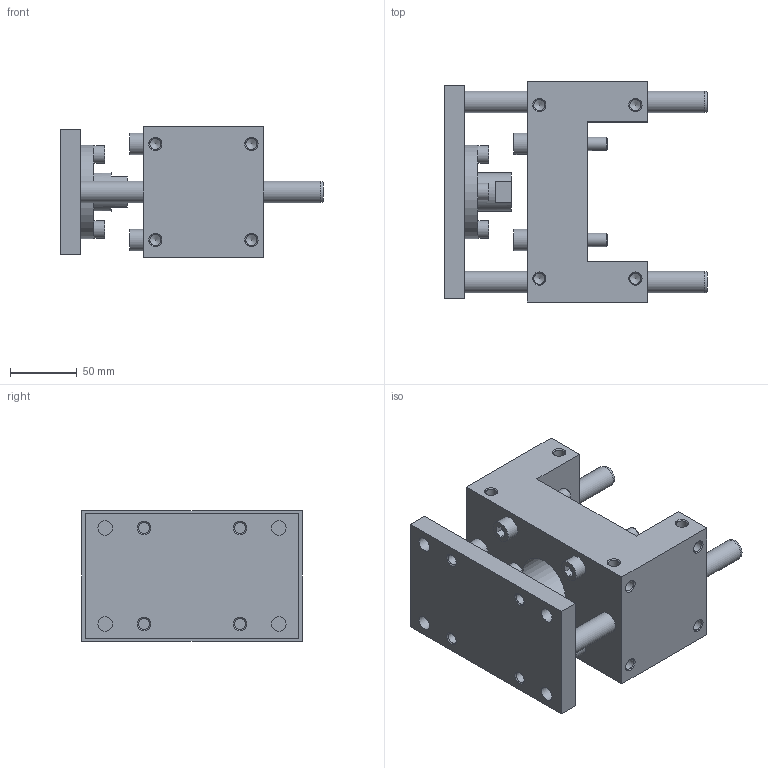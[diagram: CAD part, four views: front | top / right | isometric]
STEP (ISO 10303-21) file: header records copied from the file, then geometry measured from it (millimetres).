
FILE_DESCRIPTION( ( 'STEP AP214' ), '1' );
FILE_NAME( 'U:/Etudes/Top Solid/BIBLIO 3D AVM/TOP/PNEUMATIQUE/GUIDAGES/Type 34 (en U)/_Légère/3480130.step', '2005-05-27T12:34:10', ( ' ' ), ( ' ' ), 'XStep 1.0', ' ', ' ' );
FILE_SCHEMA( ( 'automotive_design' ) );
Length unit declared in the file: metre
Products named in the file (2): 1; 2
Bounding box: 197 x 165 x 98 mm (x, y, z)
Volume: 1212555.4 mm3; surface area: 185711.4 mm2
Topology: 2 solids, 7 shells, 245 faces, 598 edges, 389 vertices
Faces by surface type: plane 108, cylinder 92, cone 45
Full cylindrical faces by diameter (mm): 4.918 x4, 8 x8, 8.376 x32, 8.5 x4, 10 x8, 11 x8, 13 x4, 16 x8, 18.376 x2, 29 x1, 32 x1, 42 x1, 45 x2, 70 x1
Entity records: 8253 total; most frequent: CARTESIAN_POINT 1235, DIRECTION 1080, ORIENTED_EDGE 790, AXIS2_PLACEMENT_3D 446, EDGE_LOOP 436, EDGE_CURVE 395, FACE_OUTER_BOUND 329, VERTEX_POINT 329
